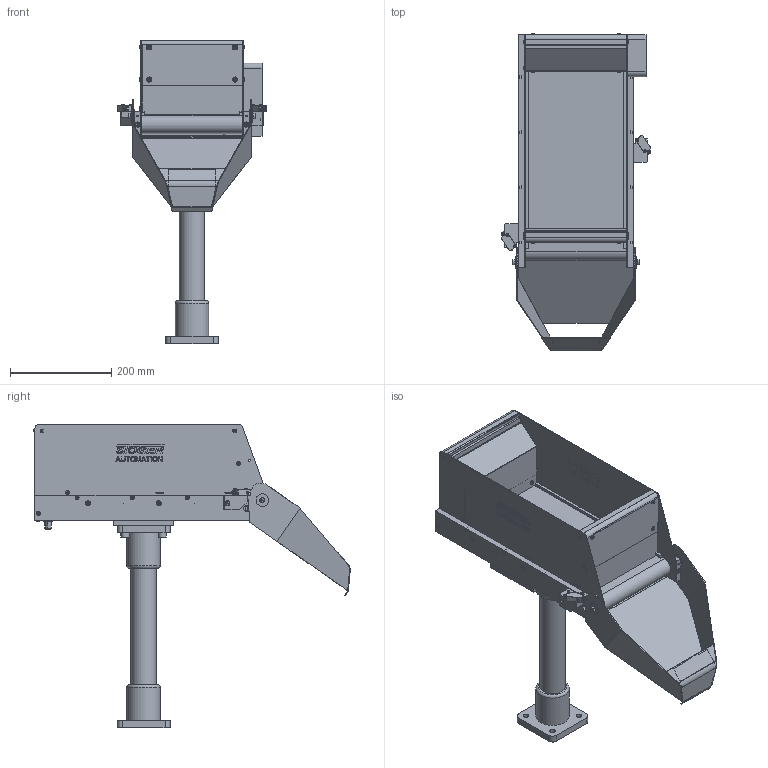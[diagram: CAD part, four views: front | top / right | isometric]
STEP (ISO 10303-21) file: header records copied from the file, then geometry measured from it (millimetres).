
FILE_DESCRIPTION(/* description */ ('Nachfüllbunker'),/* implementation_level */ '2;1');
FILE_NAME(/* name */ 'C:\Users\Wolf\Downloads\581521.stp',/* time_stamp */ '2022-01-19T09:00:02+01:00',/* author */ ('wolf'),/* organization */ (''),/* preprocessor_version */ 'ST-DEVELOPER v18.1',/* originating_system */ 'Autodesk Inventor 2021',/* authorisation */ '');
FILE_SCHEMA (('AUTOMOTIVE_DESIGN { 1 0 10303 214 3 1 1 }'));
Products named in the file (59): 581521; MKT_NFB10000000001003d.iam; MKT_NFB10000000001013d.ipt; MKT_NFB10000000001023d.ipt; MKT_NFB10000000001033d.ipt; MKT_NFB10000000001043d.ipt; MKT_NFB10000000001053d.ipt; MKT_NFB10000000001063d.ipt; MKT_NFB1000000000107neu.ipt; MKT_NFB1000000000108neu.ipt; MKT_NFB10000000001093d.ipt; MKT_NFB10000000001103d.ipt; MKT_NFB10000000001113d.ipt; MKT_NFB10000000001123d.ipt; MKT_NFB10000000001133d.ipt; MKT_NFB10000000001143d.ipt; MKT_NFB10000000001163d.ipt; MKT_NFB10000000001173d.ipt; MKT_NFB10000000001183d.ipt; 210 288; MKT_Flachriemen900153001.ipt; MKT_MotormitGetriebe24V.ipt; MKT_208000023.iam; 207 590 110; MKT_Rillenkugellager6001-2R.ipt; 202 034; 203 154; 203 086; 203 090; 203 063; 203 030; 203 024; 203 010; 203 013; 203 098; MKT_NFB1000001000042.ipt; 201 316; 203 584; MKT_NFB1000000000119.ipt; 203 022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
Assembly tree (137 placements, depth 4):
  581521
    MKT_NFB10000000001003d.iam
      MKT_NFB10000000001013d.ipt
      MKT_NFB10000000001023d.ipt
      MKT_NFB10000000001033d.ipt
      MKT_NFB10000000001043d.ipt
      MKT_NFB10000000001053d.ipt  x5
      MKT_NFB10000000001063d.ipt
      MKT_NFB1000000000107neu.ipt
      MKT_NFB1000000000108neu.ipt
      MKT_NFB10000000001093d.ipt
      MKT_NFB10000000001103d.ipt
      MKT_NFB10000000001113d.ipt
      MKT_NFB10000000001123d.ipt
      MKT_NFB10000000001133d.ipt
      MKT_NFB10000000001143d.ipt
      MKT_NFB10000000001163d.ipt
      MKT_NFB10000000001173d.ipt
      MKT_NFB10000000001183d.ipt
      210 288
      MKT_Flachriemen900153001.ipt
      MKT_MotormitGetriebe24V.ipt
      MKT_208000023.iam
        207 590 110
      MKT_Rillenkugellager6001-2R.ipt  x4
      202 034  x2
      203 154  x4
      203 086  x4
      203 090  x2
      203 063  x2
      203 098  x20
      203 030  x6
      203 022  x6
      203 024  x2
      203 010  x6
      203 013  x2
      MKT_NFB1000001000042.ipt  x2
      201 316  x8
      203 584  x2
      MKT_NFB1000000000119.ipt  x2
      203 231  x8
      MKT_Stö-Aufkl100x63-Silber.ipt  x2
    MKT_NFB1000Flansch.ipt  x2
    MKT_NFB1000000040003.ipt
    203 094  x4
    MKT_NFB10000000002003d.iam
      MKT_NFB1000000R00200.iam
        MKT_NFB10000000002013d.ipt
        MKT_NFB10000000002023d.ipt
      MKT_300779.ipt
      MKT_300679.ipt
    NFB_NFB1000000000501.ipt  x2
    203 204  x4
    203 291  x2
    MKT_WenglorP1KE007.iam
      WenglorP1KE007_1.ipt
    MKT_WenglorP1KS003.iam
      PKS003_1.ipt
      PKS003_2.ipt
Bounding box: 296.73 x 626.12 x 600 mm (x, y, z)
Volume: 4308833.4 mm3; surface area: 2086955.5 mm2
Topology: 166 solids, 167 shells, 3742 faces, 9170 edges, 5928 vertices
Faces by surface type: plane 2022, cylinder 829, cone 610, bspline 168, torus 113
Full cylindrical faces by diameter (mm): 1 x12, 1.4 x4, 1.5 x4, 2.2 x5, 2.459 x4, 3 x4, 3.058 x1, 3.2 x4, 3.242 x46, 4 x48, 4.1 x4, 4.134 x12, 4.3 x4, 4.5 x36, 4.917 x6, 5 x20, 5.4 x3, 5.5 x17, 5.8 x2, 6 x6, 6.2 x2, 6.4 x2, 6.5 x2, 6.6 x4, 6.9 x2, 7 x16, 7.6 x20, 8 x15, 8.376 x4, 8.5 x10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
Entity records: 78037 total; most frequent: CARTESIAN_POINT 17733, ORIENTED_EDGE 12510, DIRECTION 11628, EDGE_CURVE 6255, AXIS2_PLACEMENT_3D 4444, VERTEX_POINT 4029, EDGE_LOOP 2942, LINE 2740
